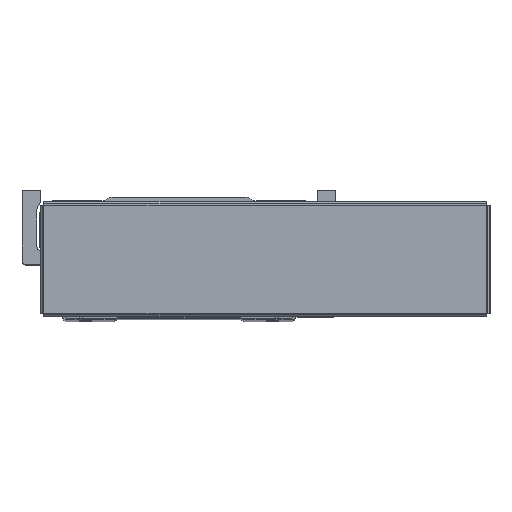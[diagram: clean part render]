
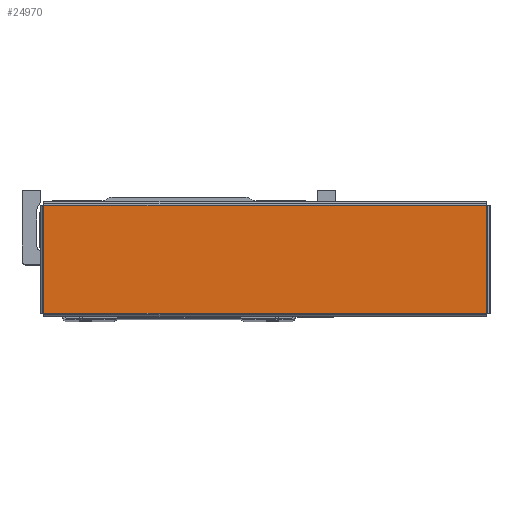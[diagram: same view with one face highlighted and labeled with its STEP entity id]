
A CAD part, top view. The second image highlights one B-rep face of the part: STEP entity #24970.
In plain terms, the highlighted planar face has unit normal (0, 0, 1) as drawn and (0, -1, 0) by its records, which use the part's own axes.
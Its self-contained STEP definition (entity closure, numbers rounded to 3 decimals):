
#3193 = EDGE_CURVE ( 'NONE', #32547, #32545, #10540, .T. ) ;
#3253 = EDGE_CURVE ( 'NONE', #32545, #32563, #10677, .T. ) ;
#3256 = EDGE_CURVE ( 'NONE', #32580, #32547, #10653, .T. ) ;
#3264 = EDGE_CURVE ( 'NONE', #32563, #32580, #10673, .T. ) ;
#9677 = DIRECTION ( 'NONE',  ( 0., 0., 1. ) ) ;
#9686 = CARTESIAN_POINT ( 'NONE',  ( 128.363, -1.2, -31.393 ) ) ;
#9805 = DIRECTION ( 'NONE',  ( -1., 0., 0. ) ) ;
#9815 = CARTESIAN_POINT ( 'NONE',  ( 128.393, -1.2, 31.363 ) ) ;
#9822 = CARTESIAN_POINT ( 'NONE',  ( -128.393, -1.2, -31.363 ) ) ;
#9835 = DIRECTION ( 'NONE',  ( 1., 0., 0. ) ) ;
#9867 = CARTESIAN_POINT ( 'NONE',  ( -128.363, -1.2, 31.393 ) ) ;
#9868 = DIRECTION ( 'NONE',  ( 0., 0., -1. ) ) ;
#10540 = LINE ( 'NONE', #9686, #10543 ) ;
#10543 = VECTOR ( 'NONE', #9677, 1000. ) ;
#10651 = VECTOR ( 'NONE', #9835, 1000. ) ;
#10653 = LINE ( 'NONE', #9822, #10651 ) ;
#10655 = VECTOR ( 'NONE', #9805, 1000. ) ;
#10673 = LINE ( 'NONE', #9867, #10679 ) ;
#10677 = LINE ( 'NONE', #9815, #10655 ) ;
#10679 = VECTOR ( 'NONE', #9868, 1000. ) ;
#15958 = DIRECTION ( 'NONE',  ( 0., 1., 0. ) ) ;
#15968 = DIRECTION ( 'NONE',  ( 0., 0., 1. ) ) ;
#15989 = PLANE ( 'NONE',  #46424 ) ;
#15990 = CARTESIAN_POINT ( 'NONE',  ( 0., -1.2, 0. ) ) ;
#24970 = ADVANCED_FACE ( 'NONE', ( #50335 ), #15989, .F. ) ;
#31842 = EDGE_LOOP ( 'NONE', ( #42889, #42869, #42907, #42878 ) ) ;
#32545 = VERTEX_POINT ( 'NONE', #34565 ) ;
#32547 = VERTEX_POINT ( 'NONE', #34572 ) ;
#32563 = VERTEX_POINT ( 'NONE', #34639 ) ;
#32580 = VERTEX_POINT ( 'NONE', #34612 ) ;
#34565 = CARTESIAN_POINT ( 'NONE',  ( 128.363, -1.2, 31.363 ) ) ;
#34572 = CARTESIAN_POINT ( 'NONE',  ( 128.363, -1.2, -31.363 ) ) ;
#34612 = CARTESIAN_POINT ( 'NONE',  ( -128.363, -1.2, -31.363 ) ) ;
#34639 = CARTESIAN_POINT ( 'NONE',  ( -128.363, -1.2, 31.363 ) ) ;
#42869 = ORIENTED_EDGE ( 'NONE', *, *, #3264, .T. ) ;
#42878 = ORIENTED_EDGE ( 'NONE', *, *, #3193, .T. ) ;
#42889 = ORIENTED_EDGE ( 'NONE', *, *, #3253, .T. ) ;
#42907 = ORIENTED_EDGE ( 'NONE', *, *, #3256, .T. ) ;
#46424 = AXIS2_PLACEMENT_3D ( 'NONE', #15990, #15958, #15968 ) ;
#50335 = FACE_OUTER_BOUND ( 'NONE', #31842, .T. ) ;
